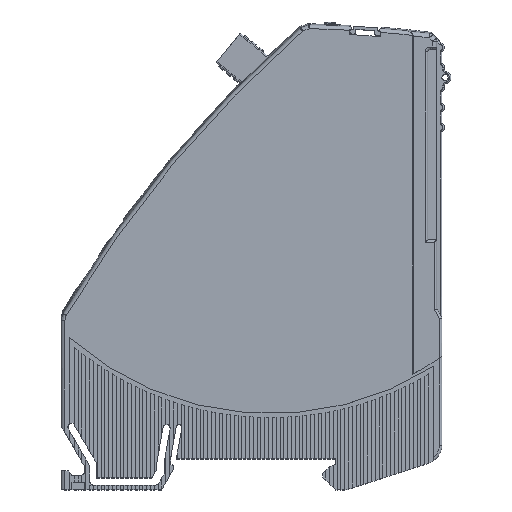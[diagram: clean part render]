
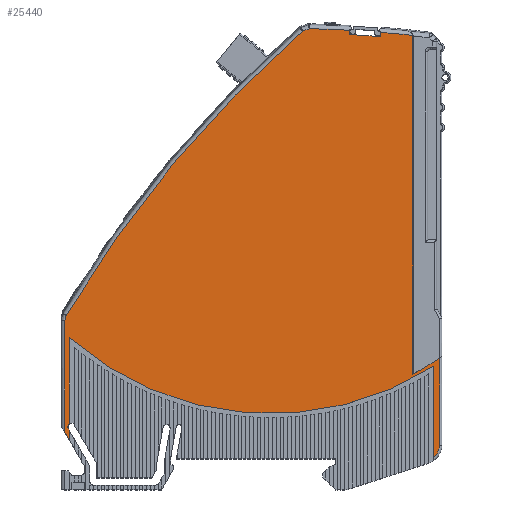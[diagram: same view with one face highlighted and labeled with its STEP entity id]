
A CAD part, top view. The second image highlights one B-rep face of the part: STEP entity #25440.
In plain terms, the highlighted planar face has unit normal (0, 0, 1).
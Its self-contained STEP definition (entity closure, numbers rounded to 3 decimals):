
#1217=CARTESIAN_POINT('',(36.,2.906,6.15));
#1218=DIRECTION('',(0.,0.,1.));
#1219=DIRECTION('',(0.657,-0.754,0.));
#1220=AXIS2_PLACEMENT_3D('',#1217,#1218,#1219);
#1222=CARTESIAN_POINT('',(4.,73.5,6.15));
#1223=DIRECTION('',(0.,0.,1.));
#1224=DIRECTION('',(-0.661,-0.75,0.));
#1225=AXIS2_PLACEMENT_3D('',#1222,#1223,#1224);
#1227=DIRECTION('',(0.5,-0.866,0.));
#1228=VECTOR('',#1227,0.282);
#1229=CARTESIAN_POINT('',(-38.441,6.3,6.15));
#1230=LINE('',#1229,#1228);
#1231=DIRECTION('',(0.5,-0.866,0.));
#1232=VECTOR('',#1231,1.8);
#1233=CARTESIAN_POINT('',(-39.2,5.614,6.15));
#1234=LINE('',#1233,#1232);
#1235=DIRECTION('',(0.,1.,0.));
#1236=VECTOR('',#1235,23.431);
#1237=CARTESIAN_POINT('',(-39.2,5.614,6.15));
#1238=LINE('',#1237,#1236);
#1239=CARTESIAN_POINT('',(-39.2,29.046,6.15));
#1240=CARTESIAN_POINT('',(-39.166,29.169,6.15));
#1241=CARTESIAN_POINT('',(-39.099,29.415,6.15));
#1242=CARTESIAN_POINT('',(-38.998,29.785,6.15));
#1243=CARTESIAN_POINT('',(-38.931,30.032,6.15));
#1244=CARTESIAN_POINT('',(-38.897,30.156,6.15));
#1246=CARTESIAN_POINT('',(173.121,-95.689,6.15));
#1247=DIRECTION('',(0.,0.,-1.));
#1248=DIRECTION('',(-0.86,0.51,0.));
#1249=AXIS2_PLACEMENT_3D('',#1246,#1247,#1248);
#1251=CARTESIAN_POINT('',(10.744,89.843,6.15));
#1252=CARTESIAN_POINT('',(11.212,90.014,6.15));
#1253=CARTESIAN_POINT('',(11.681,90.184,6.15));
#1254=CARTESIAN_POINT('',(12.15,90.355,6.15));
#1256=CARTESIAN_POINT('',(7.,-158.5,6.15));
#1257=DIRECTION('',(0.,0.,-1.));
#1258=DIRECTION('',(0.021,1.,0.));
#1259=AXIS2_PLACEMENT_3D('',#1256,#1257,#1258);
#1261=DIRECTION('',(-0.07,-0.998,0.));
#1262=VECTOR('',#1261,0.881);
#1263=CARTESIAN_POINT('',(20.66,90.033,6.15));
#1264=LINE('',#1263,#1262);
#1265=DIRECTION('',(0.998,-0.07,0.));
#1266=VECTOR('',#1265,6.46);
#1267=CARTESIAN_POINT('',(20.598,89.154,6.15));
#1268=LINE('',#1267,#1266);
#1269=DIRECTION('',(0.07,0.998,0.));
#1270=VECTOR('',#1269,0.894);
#1271=CARTESIAN_POINT('',(27.042,88.704,6.15));
#1272=LINE('',#1271,#1270);
#1273=CARTESIAN_POINT('',(7.,-158.5,6.15));
#1274=DIRECTION('',(0.,0.,-1.));
#1275=DIRECTION('',(0.081,0.997,0.));
#1276=AXIS2_PLACEMENT_3D('',#1273,#1274,#1275);
#1278=DIRECTION('',(0.,-1.,0.));
#1279=VECTOR('',#1278,71.177);
#1280=CARTESIAN_POINT('',(33.827,88.958,6.15));
#1281=LINE('',#1280,#1279);
#1282=DIRECTION('',(0.,1.,0.));
#1283=VECTOR('',#1282,18.306);
#1284=CARTESIAN_POINT('',(39.5,2.906,6.15));
#1285=LINE('',#1284,#1283);
#1307=CARTESIAN_POINT('',(38.3,0.268,6.15));
#1313=DIRECTION('',(0.,-1.,0.));
#1314=VECTOR('',#1313,19.2);
#1315=CARTESIAN_POINT('',(38.3,19.468,6.15));
#1316=LINE('',#1315,#1314);
#3472=CARTESIAN_POINT('',(4.,73.5,6.15));
#3473=DIRECTION('',(0.,0.,-1.));
#3474=DIRECTION('',(0.562,-0.827,0.));
#3475=AXIS2_PLACEMENT_3D('',#3472,#3473,#3474);
#7172=CARTESIAN_POINT('',(33.827,17.781,6.15));
#7523=CARTESIAN_POINT('',(-37.748,6.7,6.15));
#7524=DIRECTION('',(0.,0.,-1.));
#7525=DIRECTION('',(-0.866,-0.5,0.));
#7526=AXIS2_PLACEMENT_3D('',#7523,#7524,#7525);
#7537=DIRECTION('',(0.,1.,0.));
#7538=VECTOR('',#7537,18.192);
#7539=CARTESIAN_POINT('',(-38.3,7.279,6.15));
#7540=LINE('',#7539,#7538);
#9452=DIRECTION('',(0.,1.,0.));
#9453=VECTOR('',#9452,2.);
#9454=CARTESIAN_POINT('',(-38.3,4.056,6.15));
#9455=LINE('',#9454,#9453);
#19475=CARTESIAN_POINT('',(-38.3,25.472,6.15));
#19476=CARTESIAN_POINT('',(38.3,19.468,6.15));
#19477=VERTEX_POINT('',#19475);
#19478=VERTEX_POINT('',#19476);
#20223=CARTESIAN_POINT('',(-38.3,4.056,6.15));
#20224=VERTEX_POINT('',#20223);
#20775=CARTESIAN_POINT('',(-38.3,6.056,6.15));
#20776=VERTEX_POINT('',#20775);
#20837=CARTESIAN_POINT('',(20.598,89.154,6.15));
#20838=CARTESIAN_POINT('',(27.042,88.704,6.15));
#20839=VERTEX_POINT('',#20837);
#20840=VERTEX_POINT('',#20838);
#21150=CARTESIAN_POINT('',(12.15,90.355,6.15));
#21151=CARTESIAN_POINT('',(20.66,90.033,6.15));
#21152=VERTEX_POINT('',#21150);
#21153=VERTEX_POINT('',#21151);
#21160=VERTEX_POINT('',#1251);
#21163=CARTESIAN_POINT('',(-38.897,30.156,6.15));
#21164=VERTEX_POINT('',#21163);
#21170=VERTEX_POINT('',#1239);
#21173=CARTESIAN_POINT('',(-39.2,5.614,6.15));
#21174=VERTEX_POINT('',#21173);
#21187=CARTESIAN_POINT('',(27.105,89.595,6.15));
#21188=VERTEX_POINT('',#21187);
#21201=VERTEX_POINT('',#1307);
#21202=CARTESIAN_POINT('',(39.5,2.906,6.15));
#21203=VERTEX_POINT('',#21202);
#21210=CARTESIAN_POINT('',(39.5,21.212,6.15));
#21211=VERTEX_POINT('',#21210);
#21239=VERTEX_POINT('',#7172);
#21250=CARTESIAN_POINT('',(33.827,88.958,6.15));
#21251=VERTEX_POINT('',#21250);
#22075=CARTESIAN_POINT('',(-38.3,7.279,6.15));
#22077=VERTEX_POINT('',#22075);
#22085=CARTESIAN_POINT('',(-38.441,6.3,6.15));
#22086=VERTEX_POINT('',#22085);
#25397=CARTESIAN_POINT('',(0.,0.,6.15));
#25398=DIRECTION('',(0.,0.,1.));
#25399=DIRECTION('',(1.,0.,0.));
#25400=AXIS2_PLACEMENT_3D('',#25397,#25398,#25399);
#25401=PLANE('',#25400);
#25403=ORIENTED_EDGE('',*,*,#25402,.F.);
#25405=ORIENTED_EDGE('',*,*,#25404,.F.);
#25407=ORIENTED_EDGE('',*,*,#25406,.F.);
#25409=ORIENTED_EDGE('',*,*,#25408,.F.);
#25411=ORIENTED_EDGE('',*,*,#25410,.F.);
#25413=ORIENTED_EDGE('',*,*,#25412,.T.);
#25415=ORIENTED_EDGE('',*,*,#25414,.F.);
#25416=ORIENTED_EDGE('',*,*,#25352,.F.);
#25417=ORIENTED_EDGE('',*,*,#24988,.T.);
#25418=ORIENTED_EDGE('',*,*,#24830,.T.);
#25419=ORIENTED_EDGE('',*,*,#24538,.T.);
#25421=ORIENTED_EDGE('',*,*,#25420,.T.);
#25423=ORIENTED_EDGE('',*,*,#25422,.T.);
#25425=ORIENTED_EDGE('',*,*,#25424,.T.);
#25427=ORIENTED_EDGE('',*,*,#25426,.T.);
#25429=ORIENTED_EDGE('',*,*,#25428,.T.);
#25431=ORIENTED_EDGE('',*,*,#25430,.T.);
#25433=ORIENTED_EDGE('',*,*,#25432,.T.);
#25435=ORIENTED_EDGE('',*,*,#25434,.F.);
#25437=ORIENTED_EDGE('',*,*,#25436,.F.);
#25438=EDGE_LOOP('',(#25403,#25405,#25407,#25409,#25411,#25413,#25415,#25416,
#25417,#25418,#25419,#25421,#25423,#25425,#25427,#25429,#25431,#25433,#25435,
#25437));
#25439=FACE_OUTER_BOUND('',#25438,.F.);
#1221=CIRCLE('',#1220,3.5);
#1226=CIRCLE('',#1225,64.);
#1245=B_SPLINE_CURVE_WITH_KNOTS('',3,(#1239,#1240,#1241,#1242,#1243,#1244),
.UNSPECIFIED.,.F.,.F.,(4,1,1,4),(0.,0.333,0.667,1.),
.UNSPECIFIED.);
#1250=CIRCLE('',#1249,246.553);
#1255=B_SPLINE_CURVE_WITH_KNOTS('',3,(#1251,#1252,#1253,#1254),.UNSPECIFIED.,
.F.,.F.,(4,4),(0.,1.),.UNSPECIFIED.);
#1260=CIRCLE('',#1259,248.908);
#1277=CIRCLE('',#1276,248.908);
#3476=CIRCLE('',#3475,63.2);
#7527=CIRCLE('',#7526,0.8);
#24538=EDGE_CURVE('',#21164,#21160,#1250,.T.);
#24830=EDGE_CURVE('',#21170,#21164,#1245,.T.);
#24988=EDGE_CURVE('',#21174,#21170,#1238,.T.);
#25352=EDGE_CURVE('',#21174,#20224,#1234,.T.);
#25402=EDGE_CURVE('',#21201,#21203,#1221,.T.);
#25404=EDGE_CURVE('',#19478,#21201,#1316,.T.);
#25406=EDGE_CURVE('',#19477,#19478,#1226,.T.);
#25408=EDGE_CURVE('',#22077,#19477,#7540,.T.);
#25410=EDGE_CURVE('',#22086,#22077,#7527,.T.);
#25412=EDGE_CURVE('',#22086,#20776,#1230,.T.);
#25414=EDGE_CURVE('',#20224,#20776,#9455,.T.);
#25420=EDGE_CURVE('',#21160,#21152,#1255,.T.);
#25422=EDGE_CURVE('',#21152,#21153,#1260,.T.);
#25424=EDGE_CURVE('',#21153,#20839,#1264,.T.);
#25426=EDGE_CURVE('',#20839,#20840,#1268,.T.);
#25428=EDGE_CURVE('',#20840,#21188,#1272,.T.);
#25430=EDGE_CURVE('',#21188,#21251,#1277,.T.);
#25432=EDGE_CURVE('',#21251,#21239,#1281,.T.);
#25434=EDGE_CURVE('',#21211,#21239,#3476,.T.);
#25436=EDGE_CURVE('',#21203,#21211,#1285,.T.);
#25440=ADVANCED_FACE('',(#25439),#25401,.T.);
